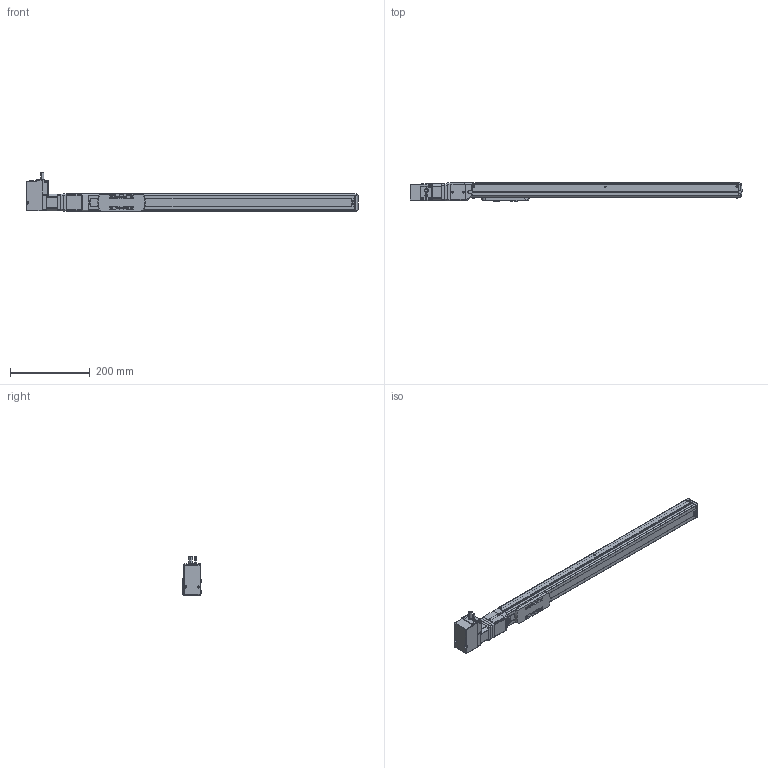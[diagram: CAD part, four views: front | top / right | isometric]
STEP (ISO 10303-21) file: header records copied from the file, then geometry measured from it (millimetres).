
FILE_DESCRIPTION(('FreeCAD Model'),'2;1');
FILE_NAME('Open CASCADE Shape Model','2023-08-01T17:52:49',('Author'),( ''),'Open CASCADE STEP processor 7.5','FreeCAD','Unknown');
FILE_SCHEMA(('AUTOMOTIVE_DESIGN { 1 0 10303 214 1 1 1 1 }'));
Length unit declared in the file: millimetre
Products named in the file (20): RCB0411; Shapes; Shapes001; Shapes002; Shapes003; Shapes004; Shapes005; Shapes006; Shapes007; Shapes008; Shapes009; Shapes010; Shapes011; Shapes012; Shapes013; KSF4-10-0500-0-AR(0); KSF4---(Cover); KSF4-AR---(Motor bracket); KSF4-10-0500---(slider); KSF4-10-0500-0-AR-(05000ARNo0)---(body)
Assembly tree (19 placements, depth 3):
  RCB0411
    Shapes
    Shapes001
    Shapes002
    Shapes003
    Shapes004
    Shapes005
    Shapes006
    Shapes007
    Shapes008
    Shapes009
    Shapes010
    Shapes011
    Shapes012
    Shapes013
    KSF4-10-0500-0-AR(0)
      KSF4---(Cover)
      KSF4-AR---(Motor bracket)
      KSF4-10-0500---(slider)
      KSF4-10-0500-0-AR-(05000ARNo0)---(body)
Bounding box: 831.9 x 46 x 98.19 mm (x, y, z)
Volume: 1339219.1 mm3; surface area: 255608.2 mm2
Topology: 18 solids, 18 shells, 1253 faces, 3248 edges, 2118 vertices
Faces by surface type: plane 683, cylinder 424, cone 66, torus 51, bspline 19, revolution 6, sphere 4
Full cylindrical faces by diameter (mm): 2.113 x8, 2.459 x3, 3 x6, 3.242 x4, 3.4 x14, 4 x3, 4.5 x2, 5.5 x8, 6 x1, 6.5 x16, 8 x1, 12 x1, 22 x1, 28 x1, 30 x2
Entity records: 92166 total; most frequent: CARTESIAN_POINT 26636, DIRECTION 12315, LINE 7295, VECTOR 7295, ORIENTED_EDGE 6460, PCURVE 6460, DEFINITIONAL_REPRESENTATION 6460, EDGE_CURVE 3230
